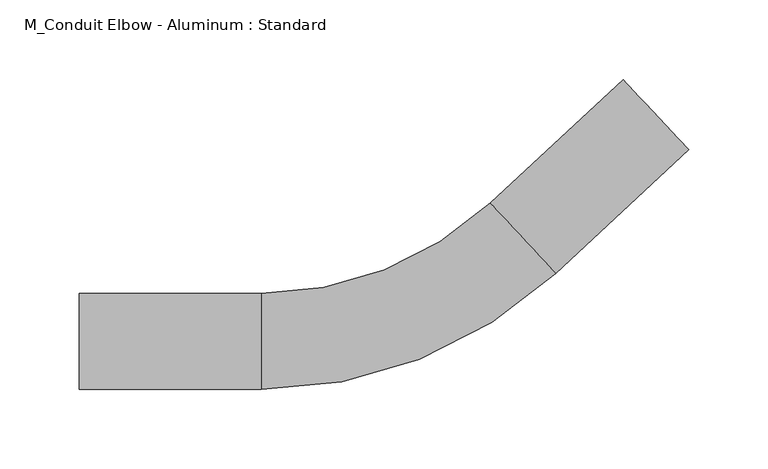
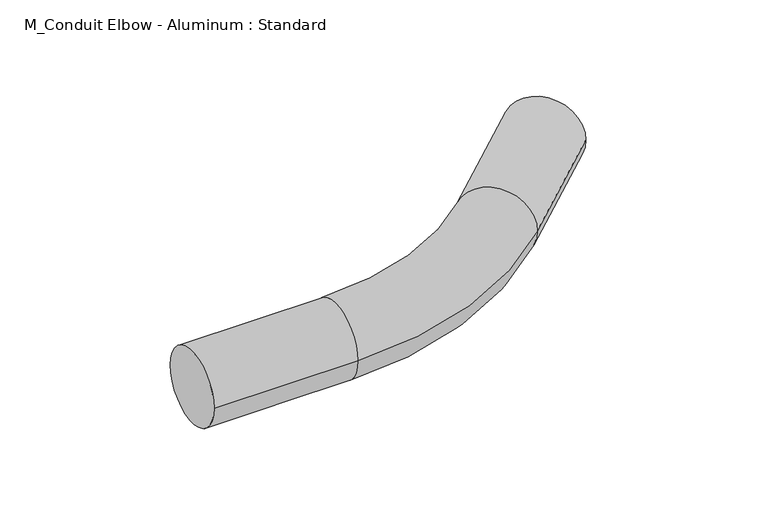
"""IFC4 building model written with IfcOpenShell, lengths in millimetres: cable carrier fitting geometry, M_Conduit Elbow - Aluminum : Standard."""

from ifc_helpers import new_model, si_unit, point, frame, origin, place, context, project, spatial, circle_curve, ellipse_curve, trimmed, source, transform, mapped, element, save
from ifc_brep_helpers import plane_surface, cylinder_surface, revolved_surface, advanced_brep


def m_conduit_elbow_aluminum_standard_2234b05d(model_context):
    return source(origin(), model_context, "Body", "AdvancedBrep", [
        advanced_brep(
        [(-209.3858509, -30.1625, 0.0), (-209.3858509, 30.1625, 0.0), (-95.0858509, -30.1625, 0.0), (-95.0858509, 30.1625, 0.0), (48.9486301, 86.9202338, 0.0), (90.1013389, 42.8117292, 0.0), (173.6753477, 120.7852828, 0.0), (132.5226389, 164.8937874, 0.0)],
        [
            (0, 1, circle_curve(frame((-209.3858509, 0.0, 0.0), z_axis=(-1.0, 0.0, 0.0), x_axis=(0.0, 1.0, 0.0)), 30.1625)),
            (1, 0, circle_curve(frame((-209.3858509, 0.0, 0.0), z_axis=(-1.0, 0.0, 0.0), x_axis=(0.0, 1.0, 0.0)), 30.1625)),
            (0, 2),
            (2, 3, circle_curve(frame((-95.0858509, 0.0, 0.0), z_axis=(-1.0, 0.0, 0.0), x_axis=(0.0, 1.0, 0.0)), 30.1625)),
            (3, 1),
            (3, 2, circle_curve(frame((-95.0858509, 0.0, 0.0), z_axis=(-1.0, 0.0, 0.0), x_axis=(0.0, 1.0, 0.0)), 30.1625)),
            (4, 3, circle_curve(frame((-95.0858509, 241.3, 0.0), z_axis=(0.0, 0.0, -1.0), x_axis=(0.0, -1.0, 0.0)), 211.1375)),
            (2, 5, circle_curve(frame((-95.0858509, 241.3, 0.0), z_axis=(0.0, 0.0, 1.0), x_axis=(0.0, -1.0, 0.0)), 271.4625)),
            (5, 4, circle_curve(frame((69.5249845, 64.8659815, 0.0), z_axis=(-0.7311811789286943, -0.6821833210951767, 0.0), x_axis=(-0.6821833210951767, 0.7311811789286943, 0.0)), 30.1625)),
            (4, 5, circle_curve(frame((69.5249845, 64.8659815, 0.0), z_axis=(-0.7311811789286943, -0.6821833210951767, 0.0), x_axis=(-0.6821833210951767, 0.7311811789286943, 0.0)), 30.1625)),
            (6, 7, circle_curve(frame((153.0989933, 142.8395351, 0.0), z_axis=(0.7311811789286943, 0.6821833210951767, 0.0), x_axis=(-0.6821833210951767, 0.7311811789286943, 0.0)), 30.1625)),
            (7, 6, circle_curve(frame((153.0989933, 142.8395351, 0.0), z_axis=(0.7311811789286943, 0.6821833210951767, 0.0), x_axis=(-0.6821833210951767, 0.7311811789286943, 0.0)), 30.1625)),
            (5, 6),
            (7, 4),
        ],
        [
            plane_surface(frame((-209.3858509, 0.0, 0.0), z_axis=(-1.0, 0.0, 0.0), x_axis=(0.0, 0.0, 1.0))),
            cylinder_surface(frame((-209.3858509, 0.0, 0.0), z_axis=(-1.0, 0.0, 0.0), x_axis=(0.0, 1.0, 0.0)), 30.1625),
            revolved_surface(trimmed(ellipse_curve(frame((-95.0858509, 0.0, 0.0), z_axis=(-1.0, 0.0, 0.0), x_axis=(0.0, 1.0, 0.0)), 30.1625, 30.1625), [point((-95.0858509, -30.1625, 0.0))], [point((-95.0858509, 30.1625, 0.0))], True, "CARTESIAN"), (-95.0858509, 241.3, 0.0), (0.0, 0.0, 1.0)),
            revolved_surface(trimmed(ellipse_curve(frame((-95.0858509, 0.0, 0.0), z_axis=(-1.0, 0.0, 0.0), x_axis=(0.0, 1.0, 0.0)), 30.1625, 30.1625), [point((-95.0858509, 30.1625, 0.0))], [point((-95.0858509, -30.1625, 0.0))], True, "CARTESIAN"), (-95.0858509, 241.3, 0.0), (0.0, 0.0, 1.0)),
            plane_surface(frame((153.0989933, 142.8395351, 0.0), z_axis=(0.7311811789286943, 0.6821833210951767, 0.0), x_axis=(0.0, 0.0, 1.0))),
            cylinder_surface(frame((69.5249845, 64.8659815, 0.0), z_axis=(-0.7311811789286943, -0.6821833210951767, 0.0), x_axis=(-0.6821833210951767, 0.7311811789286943, 0.0)), 30.1625),
        ],
        [
            (0, [[1, 2]]),
            (1, [[-1, 3, 4, 5]]),
            (1, [[-2, -5, 6, -3]]),
            (2, [[7, -4, 8, 9]]),
            (3, [[-8, -6, -7, 10]]),
            (4, [[11, 12]]),
            (5, [[-9, 13, -12, 14]]),
            (5, [[-10, -14, -11, -13]]),
        ],
    ),
    ])


if __name__ == "__main__":
    model = new_model("IFC4")
    model_context = context("Model", 3, world=origin())
    ifc_project = project(units=[si_unit("LENGTHUNIT", "METRE", prefix="MILLI")], contexts=[model_context])
    site = spatial("IfcSite", under=ifc_project)
    building = spatial("IfcBuilding", under=site)
    placement = place(None, origin())
    m_conduit_elbow_aluminum_standard_shape = m_conduit_elbow_aluminum_standard_2234b05d(model_context)
    element("IfcCableCarrierFitting", 1, ObjectType="M_Conduit Elbow - Aluminum : Standard", at=placement, inside=building, context=model_context, shape_type="MappedRepresentation", body=[
        mapped(m_conduit_elbow_aluminum_standard_shape, transform((0.0, 0.0, 0.0), x_axis=(1.0, 0.0, 0.0), y_axis=(0.0, 1.0, 0.0), z_axis=(0.0, 0.0, 1.0))),
    ])
    save(model, "model.ifc")
